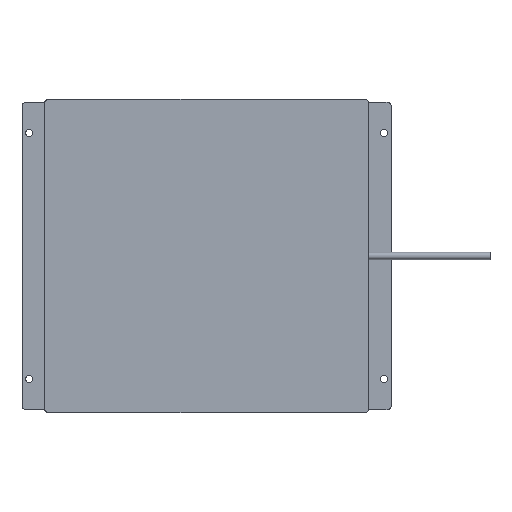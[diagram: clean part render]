
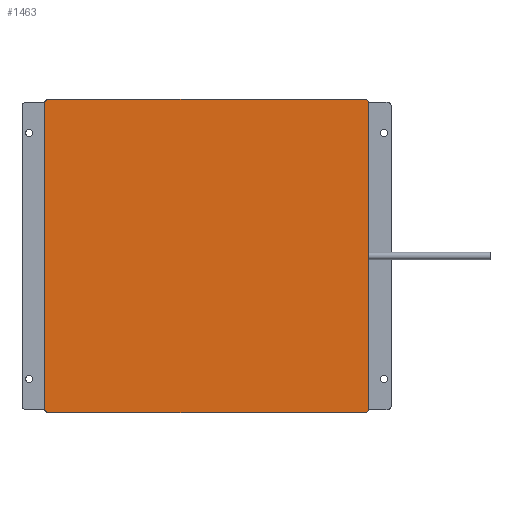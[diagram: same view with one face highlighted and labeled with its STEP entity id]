
A CAD part, front view. The second image highlights one B-rep face of the part: STEP entity #1463.
In plain terms, the highlighted planar face has unit normal (0, -1, 0).
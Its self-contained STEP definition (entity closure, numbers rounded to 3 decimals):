
#436=CARTESIAN_POINT('',(77.,-14.,-74.5));
#437=DIRECTION('',(0.,-1.,0.));
#438=DIRECTION('',(0.,0.,-1.));
#439=AXIS2_PLACEMENT_3D('',#436,#437,#438);
#441=DIRECTION('',(1.,0.,0.));
#442=VECTOR('',#441,154.);
#443=CARTESIAN_POINT('',(-77.,-14.,-76.5));
#444=LINE('',#443,#442);
#445=CARTESIAN_POINT('',(-77.,-14.,-74.5));
#446=DIRECTION('',(0.,-1.,0.));
#447=DIRECTION('',(-1.,0.,0.));
#448=AXIS2_PLACEMENT_3D('',#445,#446,#447);
#450=DIRECTION('',(0.,0.,-1.));
#451=VECTOR('',#450,149.);
#452=CARTESIAN_POINT('',(-79.,-14.,74.5));
#453=LINE('',#452,#451);
#454=CARTESIAN_POINT('',(-77.,-14.,74.5));
#455=DIRECTION('',(0.,-1.,0.));
#456=DIRECTION('',(0.,0.,1.));
#457=AXIS2_PLACEMENT_3D('',#454,#455,#456);
#459=DIRECTION('',(-1.,0.,0.));
#460=VECTOR('',#459,154.);
#461=CARTESIAN_POINT('',(77.,-14.,76.5));
#462=LINE('',#461,#460);
#463=CARTESIAN_POINT('',(77.,-14.,74.5));
#464=DIRECTION('',(0.,-1.,0.));
#465=DIRECTION('',(1.,0.,0.));
#466=AXIS2_PLACEMENT_3D('',#463,#464,#465);
#468=DIRECTION('',(0.,0.,1.));
#469=VECTOR('',#468,149.);
#470=CARTESIAN_POINT('',(79.,-14.,-74.5));
#471=LINE('',#470,#469);
#931=CARTESIAN_POINT('',(77.,-14.,-76.5));
#932=CARTESIAN_POINT('',(79.,-14.,-74.5));
#933=VERTEX_POINT('',#931);
#934=VERTEX_POINT('',#932);
#935=CARTESIAN_POINT('',(79.,-14.,74.5));
#936=CARTESIAN_POINT('',(77.,-14.,76.5));
#937=VERTEX_POINT('',#935);
#938=VERTEX_POINT('',#936);
#939=CARTESIAN_POINT('',(-77.,-14.,76.5));
#940=CARTESIAN_POINT('',(-79.,-14.,74.5));
#941=VERTEX_POINT('',#939);
#942=VERTEX_POINT('',#940);
#943=CARTESIAN_POINT('',(-79.,-14.,-74.5));
#944=CARTESIAN_POINT('',(-77.,-14.,-76.5));
#945=VERTEX_POINT('',#943);
#946=VERTEX_POINT('',#944);
#1448=CARTESIAN_POINT('',(0.,-14.,0.));
#1449=DIRECTION('',(0.,-1.,0.));
#1450=DIRECTION('',(1.,0.,0.));
#1451=AXIS2_PLACEMENT_3D('',#1448,#1449,#1450);
#1452=PLANE('',#1451);
#1453=ORIENTED_EDGE('',*,*,#1426,.F.);
#1454=ORIENTED_EDGE('',*,*,#1441,.F.);
#1455=ORIENTED_EDGE('',*,*,#1326,.F.);
#1456=ORIENTED_EDGE('',*,*,#1343,.F.);
#1457=ORIENTED_EDGE('',*,*,#1357,.F.);
#1458=ORIENTED_EDGE('',*,*,#1374,.F.);
#1459=ORIENTED_EDGE('',*,*,#1388,.F.);
#1460=ORIENTED_EDGE('',*,*,#1405,.F.);
#1461=EDGE_LOOP('',(#1453,#1454,#1455,#1456,#1457,#1458,#1459,#1460));
#1462=FACE_OUTER_BOUND('',#1461,.F.);
#440=CIRCLE('',#439,2.);
#449=CIRCLE('',#448,2.);
#458=CIRCLE('',#457,2.);
#467=CIRCLE('',#466,2.);
#1326=EDGE_CURVE('',#945,#946,#449,.T.);
#1343=EDGE_CURVE('',#942,#945,#453,.T.);
#1357=EDGE_CURVE('',#941,#942,#458,.T.);
#1374=EDGE_CURVE('',#938,#941,#462,.T.);
#1388=EDGE_CURVE('',#937,#938,#467,.T.);
#1405=EDGE_CURVE('',#934,#937,#471,.T.);
#1426=EDGE_CURVE('',#933,#934,#440,.T.);
#1441=EDGE_CURVE('',#946,#933,#444,.T.);
#1463=ADVANCED_FACE('',(#1462),#1452,.T.);
